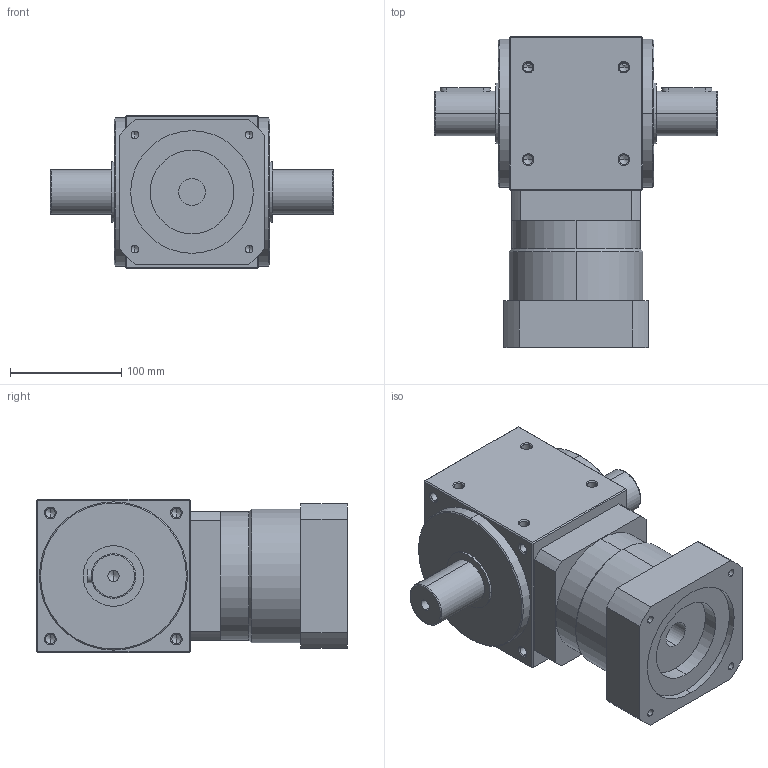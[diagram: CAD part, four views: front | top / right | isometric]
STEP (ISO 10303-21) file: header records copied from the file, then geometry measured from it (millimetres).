
FILE_DESCRIPTION (( 'STEP AP214' ), '1' );
FILE_NAME ('RXW135AS-L2-2P-24-110-130-m8.STEP', '2020-11-27T01:45:33', ( '微软用户' ), ( '微软中国' ), 'SwSTEP 2.0', 'SolidWorks 2014', '' );
FILE_SCHEMA (( 'AUTOMOTIVE_DESIGN' ));
Length unit declared in the file: millimetre
Products named in the file (2): RXW135AS-L2-2P-24-110-130-m8
Bounding box: 254 x 279 x 138 mm (x, y, z)
Volume: 4372704.9 mm3; surface area: 248863.4 mm2
Topology: 2 solids, 2 shells, 247 faces, 580 edges, 316 vertices
Faces by surface type: cone 98, cylinder 88, plane 57, bspline 4
Entity records: 9052 total; most frequent: CARTESIAN_POINT 1449, DIRECTION 1224, ORIENTED_EDGE 1056, EDGE_CURVE 528, AXIS2_PLACEMENT_3D 475, VERTEX_POINT 316, EDGE_LOOP 286, LINE 274
